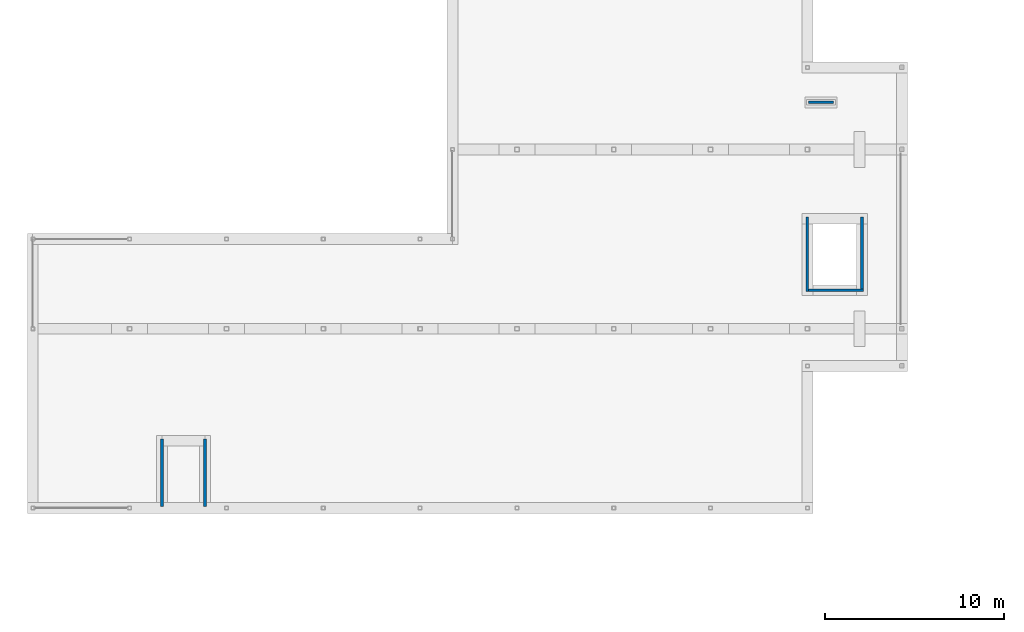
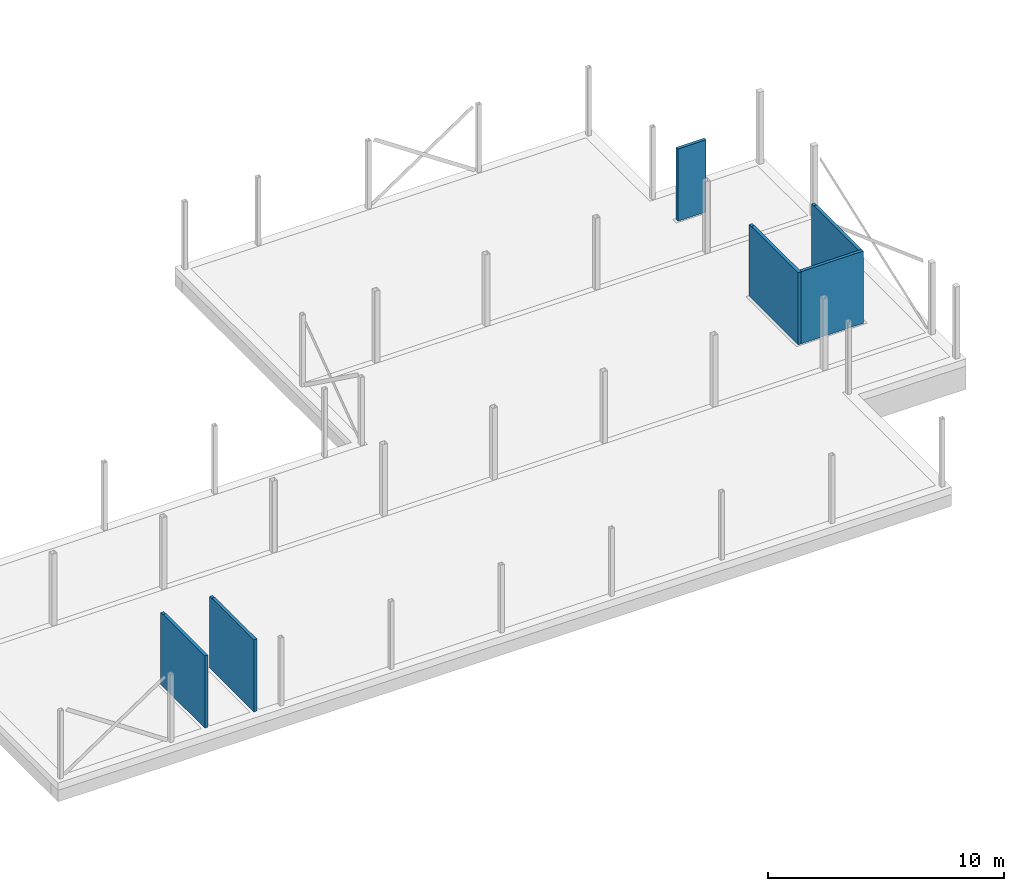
# One storey, part 11 of 12: 6 walls, 4 openings.
"""IFC2X3 building model written with IfcOpenShell, lengths in millimetres."""

import ifcopenshell
import ifcopenshell.guid

model = None  # the IFC model being written
_history = None  # IfcOwnerHistory: only IFC2X3 demands one
_inside = {}  # id of a spatial element -> (the spatial element, [elements in it])
_under = {}  # id of a project, library or spatial element -> (it, [spatial elements below it])
_declared = {}  # id of a project -> (the project, [libraries it declares])
_typed = {}  # id of a type object -> (the type object, [elements of that type])
_made_of = {}  # id of a material, layer set ... -> (it, [elements and type objects made of it])


def new_model(schema):
    """Start an empty IFC model of exactly this schema.

    Asked for "IFC4X3", IfcOpenShell would pick the latest addendum, in which some entities
    have other attributes; the version numbers below select the first issue.
    IFC2X3 requires an IfcOwnerHistory on every rooted entity: one is made here for all.
    """
    global model, _history
    if schema == "IFC4X3":
        model = ifcopenshell.file(schema_version=(4, 3, 0, 0))
    else:
        model = ifcopenshell.file(schema=schema)
    _inside.clear()
    _under.clear()
    _declared.clear()
    _typed.clear()
    _made_of.clear()
    _history = None
    if model.schema == "IFC2X3":
        org = make("IfcOrganization", Name="unknown")
        user = make(
            "IfcPersonAndOrganization",
            ThePerson=make("IfcPerson", FamilyName="unknown"),
            TheOrganization=org,
        )
        app = make(
            "IfcApplication",
            ApplicationDeveloper=org,
            Version="unknown",
            ApplicationFullName="unknown",
            ApplicationIdentifier="unknown",
        )
        _history = make(
            "IfcOwnerHistory",
            OwningUser=user,
            OwningApplication=app,
            ChangeAction="ADDED",
            CreationDate=0,
        )
    return model


def make(cls, **values):
    """One entity of the class cls with the attributes given. An attribute that is None is left unset."""
    return model.create_entity(
        cls, **{name: value for name, value in values.items() if value is not None}
    )


def entity(cls, *values):
    """Any entity or typed value of the class cls, its attributes in the order of the schema. None: left unset."""
    e = model.create_entity(cls)
    for i, value in enumerate(values):
        if value is not None:
            e[i] = value
    return e


def rooted(cls, **values):
    """An entity with a GlobalId (a new one), such as an element, a storey or a relation."""
    return make(cls, GlobalId=ifcopenshell.guid.new(), OwnerHistory=_history, **values)


def si_unit(unit_type, name, prefix=None):
    """IfcSIUnit, for example si_unit("LENGTHUNIT", "METRE", prefix="MILLI")."""
    return make("IfcSIUnit", UnitType=unit_type, Prefix=prefix, Name=name)


def converted_unit(unit_type, name, factor, base, dimensions=None, offset=None):
    """IfcConversionBasedUnit, such as the inch: factor (a typed value) times the base unit."""
    return make(
        "IfcConversionBasedUnit"
        if offset is None
        else "IfcConversionBasedUnitWithOffset",
        ConversionOffset=offset,
        Dimensions=None
        if dimensions is None
        else entity("IfcDimensionalExponents", *dimensions),
        UnitType=unit_type,
        Name=name,
        ConversionFactor=make(
            "IfcMeasureWithUnit", ValueComponent=factor, UnitComponent=base
        ),
    )


def derived_unit(unit_type, elements):
    """IfcDerivedUnit: a product of units, each with its exponent."""
    return make(
        "IfcDerivedUnit",
        Elements=[
            make("IfcDerivedUnitElement", Unit=unit, Exponent=power)
            for unit, power in elements
        ],
        UnitType=unit_type,
    )


def assignment(units):
    """IfcUnitAssignment: the units of a project."""
    return None if units is None else make("IfcUnitAssignment", Units=units)


def point(xyz):
    """IfcCartesianPoint."""
    return None if xyz is None else make("IfcCartesianPoint", Coordinates=xyz)


def direction(xyz):
    """IfcDirection."""
    return None if xyz is None else make("IfcDirection", DirectionRatios=xyz)


def frame(location, z_axis=None, x_axis=None):
    """IfcAxis2Placement3D, a coordinate frame: its origin and axes. An axis left out is left unset."""
    return make(
        "IfcAxis2Placement3D",
        Location=point(location),
        Axis=direction(z_axis),
        RefDirection=direction(x_axis),
    )


def frame_2d(location, x_axis=None):
    """IfcAxis2Placement2D, a coordinate frame in the plane: its origin and x axis."""
    return make(
        "IfcAxis2Placement2D", Location=point(location), RefDirection=direction(x_axis)
    )


def origin():
    """The frame at (0, 0, 0) with its axes left unset."""
    return frame((0.0, 0.0, 0.0))


def place(relative_to, where):
    """IfcLocalPlacement: puts the frame where relative to a parent placement (None: the world)."""
    return make(
        "IfcLocalPlacement", PlacementRelTo=relative_to, RelativePlacement=where
    )


def context(
    kind, dimensions, precision=None, world=None, true_north=None, identifier=None
):
    """IfcGeometricRepresentationContext, for example the 3D "Model" context."""
    return make(
        "IfcGeometricRepresentationContext",
        ContextIdentifier=identifier,
        ContextType=kind,
        CoordinateSpaceDimension=dimensions,
        Precision=precision,
        WorldCoordinateSystem=world,
        TrueNorth=true_north,
    )


def subcontext(parent, identifier, kind, view, scale=None):
    """IfcGeometricRepresentationSubContext, for example "Body" below "Model"."""
    return make(
        "IfcGeometricRepresentationSubContext",
        ContextIdentifier=identifier,
        ContextType=kind,
        ParentContext=parent,
        TargetScale=scale,
        TargetView=view,
    )


def project(units=None, contexts=None):
    """IfcProject with its units and contexts."""
    return rooted(
        "IfcProject",
        Name="project",
        RepresentationContexts=contexts,
        UnitsInContext=assignment(units),
    )


def spatial(cls, under=None, at=None, **own):
    """A site, building, storey or space (cls), placed at a placement, below another one or the project."""
    s = rooted(cls, ObjectPlacement=at, **own)
    if under is not None:
        _under.setdefault(under.id(), (under, []))[1].append(s)
    return s


def polyline(points):
    """IfcPolyline through the points."""
    return make("IfcPolyline", Points=[point(p) for p in points])


def profile(cls, at=None, kind="AREA", **sizes):
    """A parametric profile (cls). Its sizes go by their IFC names, for example OverallWidth=200.0."""
    return make(cls, ProfileType=kind, Position=at, **sizes)


def rectangle(**sizes):
    """IfcRectangleProfileDef."""
    return profile("IfcRectangleProfileDef", **sizes)


def outline(outer, holes=None, kind="AREA"):
    """IfcArbitraryClosedProfileDef: a profile drawn as a closed curve; with holes, ...WithVoids."""
    if holes is None:
        return make("IfcArbitraryClosedProfileDef", ProfileType=kind, OuterCurve=outer)
    return make(
        "IfcArbitraryProfileDefWithVoids",
        ProfileType=kind,
        OuterCurve=outer,
        InnerCurves=holes,
    )


def extrude(swept, where, along, depth):
    """IfcExtrudedAreaSolid: the profile swept, set in the frame where, extruded along a direction by depth."""
    return make(
        "IfcExtrudedAreaSolid",
        SweptArea=swept,
        Position=where,
        ExtrudedDirection=direction(along),
        Depth=depth,
    )


def shape(context_of_items, identifier, shape_type, items):
    """IfcShapeRepresentation: the items that make up one representation, for example the "Body"."""
    return make(
        "IfcShapeRepresentation",
        ContextOfItems=context_of_items,
        RepresentationIdentifier=identifier,
        RepresentationType=shape_type,
        Items=items,
    )


def material(Name=None, Category=None):
    """IfcMaterial."""
    return make("IfcMaterial", Name=Name, Category=Category)


def layer(
    of_material, thickness, ventilated=None, Name=None, Category=None, Priority=None
):
    """IfcMaterialLayer: one layer of a wall or slab, of a material (None: an air gap)."""
    return make(
        "IfcMaterialLayer",
        Material=of_material,
        LayerThickness=thickness,
        IsVentilated=ventilated,
        Name=Name,
        Category=Category,
        Priority=Priority,
    )


def layer_set(layers, Name=None):
    """IfcMaterialLayerSet."""
    return make("IfcMaterialLayerSet", MaterialLayers=layers, LayerSetName=Name)


def layer_usage(for_layer_set, set_direction, sense, offset, extent=None):
    """IfcMaterialLayerSetUsage: how a layer set lies in its element."""
    return make(
        "IfcMaterialLayerSetUsage",
        ForLayerSet=for_layer_set,
        LayerSetDirection=set_direction,
        DirectionSense=sense,
        OffsetFromReferenceLine=offset,
        ReferenceExtent=extent,
    )


def made_of(thing, what):
    """Note that an element or type object is made of a material, layer set ...; save() writes the relation."""
    if what is not None:
        _made_of.setdefault(what.id(), (what, []))[1].append(thing)
    return thing


def type_object(cls, material=None, **own):
    """A type object (cls), such as IfcWallType, which elements share."""
    return made_of(rooted(cls, **own), material)


def element(
    cls,
    number,
    at=None,
    inside=None,
    cuts=None,
    type_object=None,
    material=None,
    context=None,
    identifier="Body",
    shape_type=None,
    held_by="IfcProductDefinitionShape",
    body=None,
    shapes=None,
    **own,
):
    """One element of the class cls, such as IfcWall. Its Tag is "e" and its number.

    at: its placement. inside: the storey or other place that contains it. cuts: it is an
    opening in that element (IfcRelVoidsElement). A single representation is given by context,
    identifier, shape_type and body (its items); several are given by shapes. held_by: the class
    of the entity that holds the representations. save() writes the other relations.
    """
    e = rooted(cls, Tag="e%d" % number, ObjectPlacement=at, **own)
    if body is not None:
        shapes = [shape(context, identifier, shape_type, body)]
    if shapes is not None:
        e.Representation = make(held_by, Representations=shapes)
    if inside is not None:
        _inside.setdefault(inside.id(), (inside, []))[1].append(e)
    if cuts is not None:
        rooted(
            "IfcRelVoidsElement", RelatingBuildingElement=cuts, RelatedOpeningElement=e
        )
    if type_object is not None:
        _typed.setdefault(type_object.id(), (type_object, []))[1].append(e)
    return made_of(e, material)


def aggregate(whole, parts):
    """IfcRelAggregates: a whole, such as a stair, and the parts it consists of."""
    return rooted("IfcRelAggregates", RelatingObject=whole, RelatedObjects=parts)


def save(model, path):
    """Write the relations noted so far, then the file.

    IfcRelAggregates (storeys below a building ...), IfcRelContainedInSpatialStructure (elements
    in a storey), IfcRelDefinesByType, IfcRelAssociatesMaterial and IfcRelDeclares: one each for
    every whole, place, type object, material and project.
    """
    for whole, parts in _under.values():
        aggregate(whole, parts)
    for where, things in _inside.values():
        rooted(
            "IfcRelContainedInSpatialStructure",
            RelatedElements=things,
            RelatingStructure=where,
        )
    for kind, things in _typed.values():
        rooted("IfcRelDefinesByType", RelatedObjects=things, RelatingType=kind)
    for what, things in _made_of.values():
        rooted("IfcRelAssociatesMaterial", RelatedObjects=things, RelatingMaterial=what)
    for by, libraries in _declared.values():
        rooted("IfcRelDeclares", RelatingContext=by, RelatedDefinitions=libraries)
    model.write(path)


model = new_model("IFC2X3")

# Units and contexts
model_context = context("Model", 3, precision=0.01, world=origin(), true_north=direction((6.123031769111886e-17, 1.0)))
body_context = subcontext(model_context, "Body", "Model", "MODEL_VIEW")
ifc_project = project(units=[si_unit("LENGTHUNIT", "METRE", prefix="MILLI"), si_unit("AREAUNIT", "SQUARE_METRE"), si_unit("VOLUMEUNIT", "CUBIC_METRE"), converted_unit("PLANEANGLEUNIT", "DEGREE", entity("IfcPlaneAngleMeasure", 0.017453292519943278), si_unit("PLANEANGLEUNIT", "RADIAN"), dimensions=[0, 0, 0, 0, 0, 0, 0]), si_unit("MASSUNIT", "GRAM", prefix="KILO"), derived_unit("MASSDENSITYUNIT", [(si_unit("MASSUNIT", "GRAM", prefix="KILO"), 1), (si_unit("LENGTHUNIT", "METRE"), -3)]), derived_unit("IONCONCENTRATIONUNIT", [(si_unit("MASSUNIT", "GRAM", prefix="KILO"), 1), (si_unit("LENGTHUNIT", "METRE"), -3)]), derived_unit("MOMENTOFINERTIAUNIT", [(si_unit("LENGTHUNIT", "METRE"), 4)]), si_unit("TIMEUNIT", "SECOND"), si_unit("FREQUENCYUNIT", "HERTZ"), si_unit("THERMODYNAMICTEMPERATUREUNIT", "DEGREE_CELSIUS"), derived_unit("THERMALTRANSMITTANCEUNIT", [(si_unit("MASSUNIT", "GRAM", prefix="KILO"), 1), (si_unit("THERMODYNAMICTEMPERATUREUNIT", "KELVIN"), -1), (si_unit("TIMEUNIT", "SECOND"), -3)]), derived_unit("THERMALCONDUCTANCEUNIT", [(si_unit("MASSUNIT", "GRAM", prefix="KILO"), 1), (si_unit("THERMODYNAMICTEMPERATUREUNIT", "KELVIN"), -1), (si_unit("TIMEUNIT", "SECOND"), -3), (si_unit("LENGTHUNIT", "METRE"), 1)]), derived_unit("VOLUMETRICFLOWRATEUNIT", [(si_unit("LENGTHUNIT", "METRE", prefix="DECI"), 3), (si_unit("TIMEUNIT", "SECOND"), -1)]), derived_unit("MASSFLOWRATEUNIT", [(si_unit("MASSUNIT", "GRAM", prefix="KILO"), 1), (si_unit("TIMEUNIT", "SECOND"), -1)]), derived_unit("ROTATIONALFREQUENCYUNIT", [(si_unit("TIMEUNIT", "SECOND"), -1)]), si_unit("ELECTRICCURRENTUNIT", "AMPERE"), si_unit("ELECTRICVOLTAGEUNIT", "VOLT"), si_unit("POWERUNIT", "WATT"), si_unit("FORCEUNIT", "NEWTON", prefix="KILO"), si_unit("ILLUMINANCEUNIT", "LUX"), si_unit("LUMINOUSFLUXUNIT", "LUMEN"), si_unit("LUMINOUSINTENSITYUNIT", "CANDELA"), si_unit("ENERGYUNIT", "JOULE"), derived_unit("USERDEFINED", [(si_unit("MASSUNIT", "GRAM", prefix="KILO"), -1), (si_unit("LENGTHUNIT", "METRE"), -2), (si_unit("TIMEUNIT", "SECOND"), 3), (si_unit("LUMINOUSFLUXUNIT", "LUMEN"), 1)]), derived_unit("USERDEFINED", [(si_unit("MASSUNIT", "GRAM", prefix="KILO"), 1), (si_unit("TIMEUNIT", "SECOND"), -3), (si_unit("LENGTHUNIT", "METRE"), 3), (si_unit("ELECTRICCURRENTUNIT", "AMPERE"), -2)]), derived_unit("SOUNDPOWERUNIT", [(si_unit("MASSUNIT", "GRAM", prefix="KILO"), 1), (si_unit("TIMEUNIT", "SECOND"), -3), (si_unit("LENGTHUNIT", "METRE"), 2)]), derived_unit("SOUNDPRESSUREUNIT", [(si_unit("MASSUNIT", "GRAM", prefix="KILO"), 1), (si_unit("LENGTHUNIT", "METRE"), -1), (si_unit("TIMEUNIT", "SECOND"), -2)]), derived_unit("LINEARVELOCITYUNIT", [(si_unit("LENGTHUNIT", "METRE"), 1), (si_unit("TIMEUNIT", "SECOND"), -1)]), si_unit("PRESSUREUNIT", "PASCAL"), derived_unit("USERDEFINED", [(si_unit("MASSUNIT", "GRAM", prefix="KILO"), 1), (si_unit("LENGTHUNIT", "METRE"), -2), (si_unit("TIMEUNIT", "SECOND"), -2)]), derived_unit("LINEARFORCEUNIT", [(si_unit("MASSUNIT", "GRAM", prefix="KILO"), 1), (si_unit("TIMEUNIT", "SECOND"), -2)]), derived_unit("PLANARFORCEUNIT", [(si_unit("MASSUNIT", "GRAM", prefix="KILO"), 1), (si_unit("LENGTHUNIT", "METRE"), -1), (si_unit("TIMEUNIT", "SECOND"), -2)]), derived_unit("SPECIFICHEATCAPACITYUNIT", [(si_unit("THERMODYNAMICTEMPERATUREUNIT", "KELVIN"), -1), (si_unit("LENGTHUNIT", "METRE"), 2), (si_unit("TIMEUNIT", "SECOND"), -2)]), derived_unit("HEATFLUXDENSITYUNIT", [(si_unit("MASSUNIT", "GRAM", prefix="KILO"), 1), (si_unit("TIMEUNIT", "SECOND"), -3)]), derived_unit("HEATINGVALUEUNIT", [(si_unit("LENGTHUNIT", "METRE"), 2), (si_unit("TIMEUNIT", "SECOND"), -2)]), derived_unit("VAPORPERMEABILITYUNIT", [(si_unit("LENGTHUNIT", "METRE"), -1), (si_unit("TIMEUNIT", "SECOND"), 1)]), derived_unit("DYNAMICVISCOSITYUNIT", [(si_unit("MASSUNIT", "GRAM", prefix="KILO"), 1), (si_unit("TIMEUNIT", "SECOND"), -1), (si_unit("LENGTHUNIT", "METRE"), -1)]), derived_unit("THERMALEXPANSIONCOEFFICIENTUNIT", [(si_unit("THERMODYNAMICTEMPERATUREUNIT", "KELVIN"), -1)]), derived_unit("MODULUSOFELASTICITYUNIT", [(si_unit("MASSUNIT", "GRAM", prefix="KILO"), 1), (si_unit("LENGTHUNIT", "METRE"), -1), (si_unit("TIMEUNIT", "SECOND"), -2)]), derived_unit("ISOTHERMALMOISTURECAPACITYUNIT", [(si_unit("MASSUNIT", "GRAM", prefix="KILO"), -1), (si_unit("LENGTHUNIT", "METRE"), 3)]), derived_unit("MOISTUREDIFFUSIVITYUNIT", [(si_unit("TIMEUNIT", "SECOND"), -1), (si_unit("LENGTHUNIT", "METRE"), 2)]), derived_unit("MASSPERLENGTHUNIT", [(si_unit("MASSUNIT", "GRAM", prefix="KILO"), 1), (si_unit("LENGTHUNIT", "METRE"), -1)]), derived_unit("THERMALRESISTANCEUNIT", [(si_unit("MASSUNIT", "GRAM", prefix="KILO"), -1), (si_unit("TIMEUNIT", "SECOND"), 3), (si_unit("THERMODYNAMICTEMPERATUREUNIT", "KELVIN"), 1)]), derived_unit("ACCELERATIONUNIT", [(si_unit("LENGTHUNIT", "METRE"), 1), (si_unit("TIMEUNIT", "SECOND"), -2)]), derived_unit("ANGULARVELOCITYUNIT", [(si_unit("TIMEUNIT", "SECOND"), -1), (si_unit("PLANEANGLEUNIT", "RADIAN"), 1)]), derived_unit("LINEARSTIFFNESSUNIT", [(si_unit("MASSUNIT", "GRAM", prefix="KILO"), 1), (si_unit("TIMEUNIT", "SECOND"), -2)]), derived_unit("WARPINGCONSTANTUNIT", [(si_unit("LENGTHUNIT", "METRE"), 6)]), derived_unit("LINEARMOMENTUNIT", [(si_unit("MASSUNIT", "GRAM", prefix="KILO"), 1), (si_unit("LENGTHUNIT", "METRE"), 1), (si_unit("TIMEUNIT", "SECOND"), -2)]), derived_unit("TORQUEUNIT", [(si_unit("MASSUNIT", "GRAM", prefix="KILO"), 1), (si_unit("LENGTHUNIT", "METRE"), 2), (si_unit("TIMEUNIT", "SECOND"), -2)])], contexts=[model_context])

# Site, building, storey
site_placement = place(None, origin())
site = spatial("IfcSite", under=ifc_project, at=site_placement, Name="Default", CompositionType="ELEMENT")
building_placement = place(site_placement, origin())
building = spatial("IfcBuilding", under=site, at=building_placement, CompositionType="ELEMENT")
storey_placement = place(building_placement, origin())
storey = spatial("IfcBuildingStorey", under=building, at=storey_placement, Name="00 begane grond", CompositionType="ELEMENT", Elevation=0.0)

# Wall, opening
ifc_material = material(Name="VRI_kalkzandsteen")
ifc_layer = layer(ifc_material, 150.0)
ifc_layer_set = layer_set([ifc_layer], Name="Basic Wall:22_WA_VRI_wand_kalkzandsteen_150")
ifc_layer_usage_1 = layer_usage(ifc_layer_set, "AXIS2", "NEGATIVE", 75.0)
wall_type = type_object("IfcWallType", Name="Basic Wall:22_WA_VRI_wand_kalkzandsteen_150", PredefinedType="STANDARD", material=ifc_layer_set)
wall_1_placement = place(storey_placement, frame((53200.0, 22078.0, -80.0), z_axis=(0.0, 0.0, 1.0), x_axis=(0.0, 1.0, 0.0)))
wall_1 = element("IfcWallStandardCase", 1, at=wall_1_placement, inside=storey, type_object=wall_type, material=ifc_layer_usage_1, Name="Basic Wall:22_WA_VRI_wand_kalkzandsteen_150", ObjectType="Basic Wall:22_WA_VRI_wand_kalkzandsteen_150", context=body_context, shape_type="SweptSolid", body=[
    extrude(rectangle(XDim=4154.999999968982, YDim=150.00000000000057, at=frame_2d((2077.499999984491, 3.169020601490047e-12), x_axis=(-1.0, 0.0))), origin(), (0.0, 0.0, 1.0), 3740.0000000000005),
])
opening_1_placement = place(wall_1_placement, origin())
element("IfcOpeningElement", 2, at=opening_1_placement, cuts=wall_1, Name="Basic Wall:22_WA_VRI_wand_kalkzandsteen_150", ObjectType="Opening", context=body_context, shape_type="SweptSolid", body=[
    extrude(outline(polyline([(-103.0, -203.74999999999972), (103.0, -203.74999999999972), (103.0, 61.24999999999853), (200.0, 61.24999999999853), (200.0, 81.24999999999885), (-200.0, 81.24999999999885), (-200.0, 61.250000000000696), (-103.0, 61.250000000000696), (-103.0, -203.74999999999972)])), frame((4052.0, -3125.0, 3796.249999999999), z_axis=(0.0, 1.0, 0.0), x_axis=(1.0, 0.0, 0.0)), (0.0, 0.0, 1.0), 3199.9999999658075),
])

# Wall
ifc_layer_usage_2 = layer_usage(ifc_layer_set, "AXIS2", "POSITIVE", -75.0)
wall_2_placement = place(storey_placement, frame((53275.0, 22153.0, -80.0)))
element("IfcWallStandardCase", 3, at=wall_2_placement, inside=storey, type_object=wall_type, material=ifc_layer_usage_2, Name="Basic Wall:22_WA_VRI_wand_kalkzandsteen_150", ObjectType="Basic Wall:22_WA_VRI_wand_kalkzandsteen_150", context=body_context, shape_type="SweptSolid", body=[
    extrude(rectangle(XDim=3049.999999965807, YDim=150.00000000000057, at=frame_2d((1524.9999999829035, 1.5987211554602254e-12), x_axis=(-1.0, 0.0))), origin(), (0.0, 0.0, 1.0), 3740.0000000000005),
])

# Wall, opening
ifc_layer_usage_3 = layer_usage(ifc_layer_set, "AXIS2", "NEGATIVE", 75.0)
wall_3_placement = place(storey_placement, frame((56250.0, 22228.0, -80.0), z_axis=(0.0, 0.0, 1.0), x_axis=(0.0, 1.0, 0.0)))
wall_3 = element("IfcWallStandardCase", 4, at=wall_3_placement, inside=storey, type_object=wall_type, material=ifc_layer_usage_3, Name="Basic Wall:22_WA_VRI_wand_kalkzandsteen_150", ObjectType="Basic Wall:22_WA_VRI_wand_kalkzandsteen_150", context=body_context, shape_type="SweptSolid", body=[
    extrude(rectangle(XDim=4004.9999999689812, YDim=150.00000000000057, at=frame_2d((2002.4999999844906, 2.8919089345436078e-12), x_axis=(-1.0, 0.0))), origin(), (0.0, 0.0, 1.0), 3740.0000000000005),
])
opening_2_placement = place(wall_3_placement, origin())
element("IfcOpeningElement", 5, at=opening_2_placement, cuts=wall_3, Name="Basic Wall:22_WA_VRI_wand_kalkzandsteen_150", ObjectType="Opening", context=body_context, shape_type="SweptSolid", body=[
    extrude(outline(polyline([(-103.0, -203.74999999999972), (103.0, -203.74999999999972), (103.0, 61.24999999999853), (200.0, 61.24999999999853), (200.0, 81.24999999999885), (-200.0, 81.24999999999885), (-200.0, 61.250000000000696), (-103.0, 61.250000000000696), (-103.0, -203.74999999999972)])), frame((3902.0, -75.0, 3796.249999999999), z_axis=(0.0, 1.0, 0.0), x_axis=(1.0, 0.0, 0.0)), (0.0, 0.0, 1.0), 3199.9999999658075),
])

# Wall
ifc_layer_usage_4 = layer_usage(ifc_layer_set, "AXIS2", "NEGATIVE", 75.0)
wall_4_placement = place(storey_placement, frame((53275.0, 32625.0, -80.0)))
element("IfcWallStandardCase", 6, at=wall_4_placement, inside=storey, type_object=wall_type, material=ifc_layer_usage_4, Name="Basic Wall:22_WA_VRI_wand_kalkzandsteen_150", ObjectType="Basic Wall:22_WA_VRI_wand_kalkzandsteen_150", context=body_context, shape_type="SweptSolid", body=[
    extrude(rectangle(XDim=1379.9999999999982, YDim=150.00000000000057, at=frame_2d((689.9999999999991, -5.115907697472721e-13), x_axis=(-1.0, 0.0))), origin(), (0.0, 0.0, 1.0), 3740.0000000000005),
])

# Wall, opening
ifc_layer_usage_5 = layer_usage(ifc_layer_set, "AXIS2", "NEGATIVE", 75.0)
wall_5_placement = place(storey_placement, frame((19600.0, 10100.0, -80.0), z_axis=(0.0, 0.0, 1.0), x_axis=(0.0, 1.0, 0.0)))
wall_5 = element("IfcWallStandardCase", 7, at=wall_5_placement, inside=storey, type_object=wall_type, material=ifc_layer_usage_5, Name="Basic Wall:22_WA_VRI_wand_kalkzandsteen_150", ObjectType="Basic Wall:22_WA_VRI_wand_kalkzandsteen_150", context=body_context, shape_type="SweptSolid", body=[
    extrude(rectangle(XDim=3756.000000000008, YDim=150.00000000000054, at=frame_2d((1878.000000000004, -2.913225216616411e-13), x_axis=(-1.0, 0.0))), origin(), (0.0, 0.0, 1.0), 3740.0000000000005),
])
opening_3_placement = place(wall_5_placement, origin())
element("IfcOpeningElement", 8, at=opening_3_placement, cuts=wall_5, Name="Basic Wall:22_WA_VRI_wand_kalkzandsteen_150", ObjectType="Opening", context=body_context, shape_type="SweptSolid", body=[
    extrude(outline(polyline([(-103.0, -203.74999999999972), (103.0, -203.74999999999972), (103.0, 61.24999999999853), (200.0, 61.24999999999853), (200.0, 81.24999999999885), (-200.0, 81.24999999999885), (-200.0, 61.250000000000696), (-103.0, 61.250000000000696), (-103.0, -203.74999999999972)])), frame((3653.0, -75.0, 3796.249999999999), z_axis=(0.0, 1.0, 0.0), x_axis=(1.0, 0.0, 0.0)), (0.0, 0.0, 1.0), 2549.9999999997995),
])

ifc_layer_usage_6 = layer_usage(ifc_layer_set, "AXIS2", "NEGATIVE", 75.0)
wall_6_placement = place(storey_placement, frame((17200.0, 10100.0, -80.0), z_axis=(0.0, 0.0, 1.0), x_axis=(0.0, 1.0, 0.0)))
wall_6 = element("IfcWallStandardCase", 9, at=wall_6_placement, inside=storey, type_object=wall_type, material=ifc_layer_usage_6, Name="Basic Wall:22_WA_VRI_wand_kalkzandsteen_150", ObjectType="Basic Wall:22_WA_VRI_wand_kalkzandsteen_150", context=body_context, shape_type="SweptSolid", body=[
    extrude(rectangle(XDim=3756.000000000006, YDim=150.00000000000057, at=frame_2d((1878.000000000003, 7.887024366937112e-13), x_axis=(-1.0, 0.0))), origin(), (0.0, 0.0, 1.0), 3740.0000000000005),
])
opening_4_placement = place(wall_6_placement, origin())
element("IfcOpeningElement", 10, at=opening_4_placement, cuts=wall_6, Name="Basic Wall:22_WA_VRI_wand_kalkzandsteen_150", ObjectType="Opening", context=body_context, shape_type="SweptSolid", body=[
    extrude(outline(polyline([(-103.0, -203.74999999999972), (103.0, -203.74999999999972), (103.0, 61.24999999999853), (200.0, 61.24999999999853), (200.0, 81.24999999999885), (-200.0, 81.24999999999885), (-200.0, 61.250000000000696), (-103.0, 61.250000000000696), (-103.0, -203.74999999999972)])), frame((3653.0, -2475.0, 3796.249999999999), z_axis=(0.0, 1.0, 0.0), x_axis=(1.0, 0.0, 0.0)), (0.0, 0.0, 1.0), 2549.9999999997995),
])

save(model, "model.ifc")
